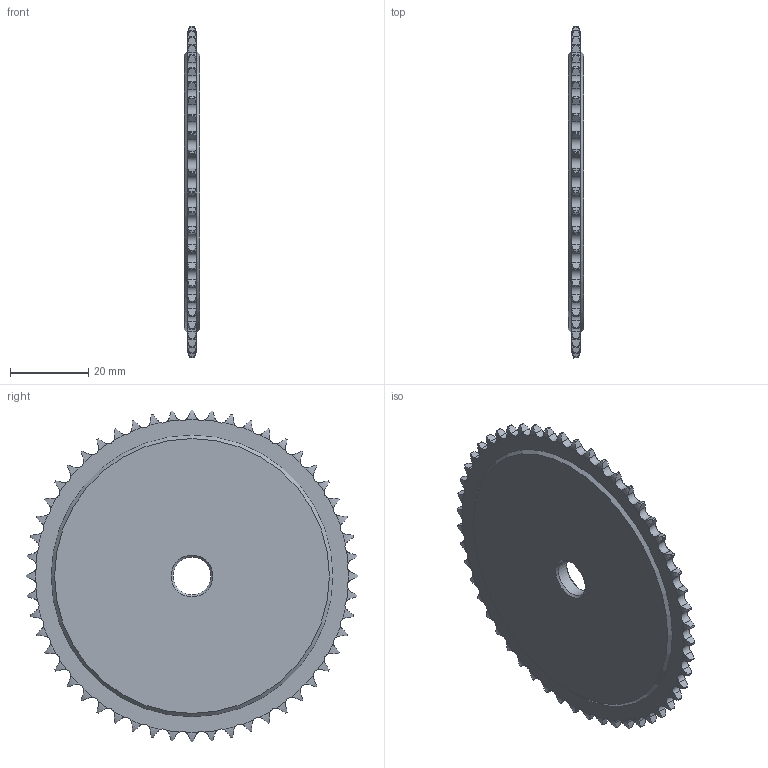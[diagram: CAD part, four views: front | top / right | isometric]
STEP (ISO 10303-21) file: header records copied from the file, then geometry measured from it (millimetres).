
FILE_DESCRIPTION(/* description */ (''),/* implementation_level */ '2;1');
FILE_NAME(/* name */ 'C:\Users\stagistaCAD\Desktop\20105052.stp',/* time_stamp */ '2018-06-27T10:18:51+02:00',/* author */ ('stagistacad'),/* organization */ (''),/* preprocessor_version */ 'ST-DEVELOPER v15.6',/* originating_system */ 'Autodesk Inventor 2015',/* authorisation */ '');
FILE_SCHEMA (('AUTOMOTIVE_DESIGN { 1 0 10303 214 3 1 1 }'));
Length unit declared in the file: millimetre
Products named in the file (1): 20105052
Bounding box: 4 x 84.91 x 84.91 mm (x, y, z)
Volume: 18425.8 mm3; surface area: 11374.2 mm2
Topology: 1 solids, 1 shells, 321 faces, 949 edges, 632 vertices
Faces by surface type: cylinder 209, torus 104, plane 4, cone 4
Full cylindrical faces by diameter (mm): 9.7 x1
Entity records: 12090 total; most frequent: CARTESIAN_POINT 4010, ORIENTED_EDGE 1888, DIRECTION 1492, EDGE_CURVE 944, AXIS2_PLACEMENT_3D 642, VERTEX_POINT 632, B_SPLINE_CURVE_WITH_KNOTS 416, EDGE_LOOP 330
